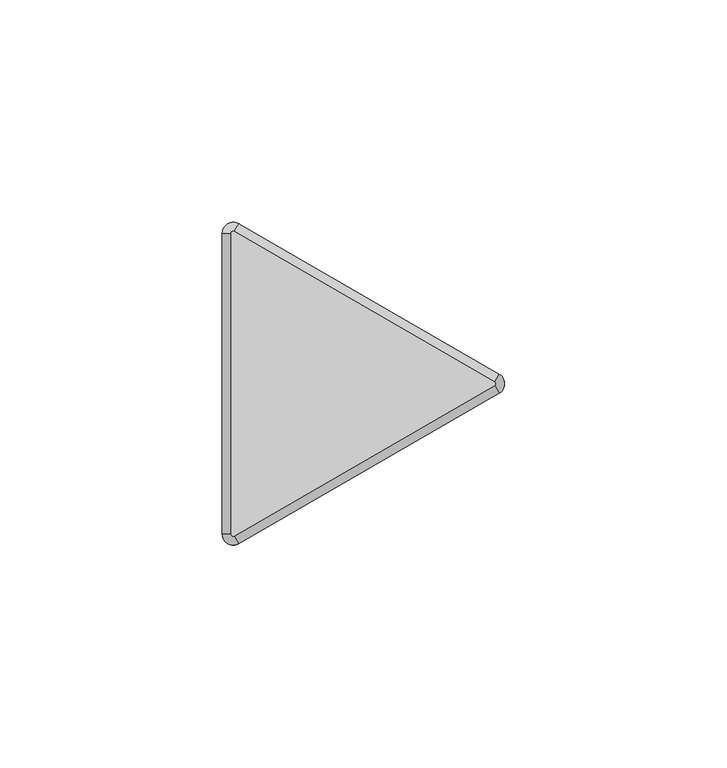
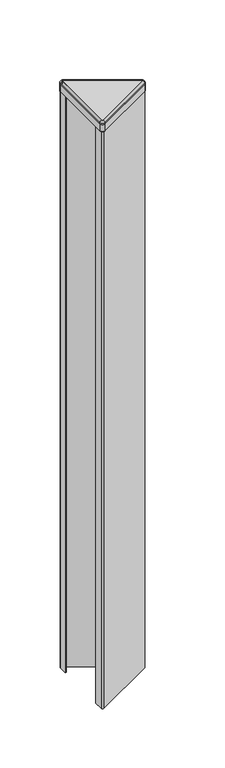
"""IFC4 building model written with IfcOpenShell, lengths in millimetres: furniture geometry, Steelcase - Answer Solution - Panel - 120deg Change-of-Height Trim - Thin : Y Corner - 24H for 78H App."""

from ifc_helpers import new_model, si_unit, point, frame, frame_2d, origin, place, context, project, spatial, polyline, circle_curve, ellipse_curve, trimmed, segment, composite_curve, outline, extrude, source, transform, mapped, element, save
from ifc_brep_helpers import plane_surface, cylinder_surface, revolved_surface, advanced_brep


def furniture_495dd6eb(model_context):
    return source(origin(), model_context, "Body", "SolidModel", [
        advanced_brep(
        [(-10.518645, -37.3335529, 1985.6628978), (-14.2052101, -35.2051135, 1985.6628978), (-14.2052101, -35.2051135, 1984.7164663), (-10.518645, -37.3335529, 1984.7164663), (-11.46175, -35.7000471, 1987.55), (-12.319, -35.2051135, 1987.55), (-11.46175, -35.7000471, 1984.7164663), (-12.319, -35.2051135, 1984.7164663), (48.0429908, -3.5229767, 1984.7164663), (48.0429908, -3.5229767, 1985.6628978), (47.0998858, -1.8894709, 1987.55), (47.0998858, -1.8894709, 1984.7164663), (48.0429908, 0.733902, 1985.6628978), (48.0429908, 0.733902, 1984.7164663), (47.0998858, -0.8996038, 1987.55), (47.0998858, -0.8996038, 1984.7164663), (-10.518645, 34.5444782, 1984.7164663), (-14.2052101, 32.4160388, 1984.7164663), (-11.46175, 32.9109723, 1984.7164663), (-12.319, 32.4160388, 1984.7164663), (-10.518645, 34.5444782, 1985.6628978), (-11.46175, 32.9109723, 1987.55), (-14.2052101, 32.4160388, 1985.6628978), (-12.319, 32.4160388, 1987.55)],
        [
            (0, 1, circle_curve(frame((-11.7475, -35.2051135, 1985.6628978), z_axis=(0.0, 0.0, -1.0), x_axis=(-1.0, 0.0, 0.0)), 2.4577101)),
            (1, 2),
            (2, 3, circle_curve(frame((-11.7475, -35.2051135, 1984.7164663), z_axis=(0.0, 0.0, 1.0), x_axis=(-1.0, 0.0, 0.0)), 2.4577101)),
            (3, 0),
            (4, 5, circle_curve(frame((-11.7475, -35.2051135, 1987.55), z_axis=(0.0, 0.0, -1.0), x_axis=(-1.0, 0.0, 0.0)), 0.5715)),
            (5, 1, circle_curve(frame((-12.3181076, -35.2051135, 1985.6628978), z_axis=(0.0, -1.0, 0.0), x_axis=(1.0, 0.0, 0.0)), 1.8871024)),
            (0, 4, circle_curve(frame((-11.4621962, -35.6992743, 1985.6628978), z_axis=(-0.8660254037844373, -0.5000000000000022, 0.0), x_axis=(-0.5000000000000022, 0.8660254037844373, 0.0)), 1.8871024)),
            (6, 7, circle_curve(frame((-11.7475, -35.2051135, 1984.7164663), z_axis=(0.0, 0.0, -1.0), x_axis=(-1.0, 0.0, 0.0)), 0.5715)),
            (7, 5),
            (4, 6),
            (3, 8),
            (8, 9),
            (9, 0),
            (9, 10, circle_curve(frame((47.0994396, -1.8886981, 1985.6628978), z_axis=(-0.8660254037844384, -0.5000000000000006, 0.0), x_axis=(-0.5000000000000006, 0.8660254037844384, 0.0)), 1.8871024)),
            (10, 4),
            (10, 11),
            (11, 6),
            (12, 9, circle_curve(frame((46.8141358, -1.3945374, 1985.6628978), z_axis=(0.0, 0.0, -1.0), x_axis=(0.4999999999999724, -0.8660254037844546, 0.0)), 2.4577101)),
            (8, 13, circle_curve(frame((46.8141358, -1.3945374, 1984.7164663), z_axis=(0.0, 0.0, 1.0), x_axis=(0.4999999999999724, -0.8660254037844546, 0.0)), 2.4577101)),
            (13, 12),
            (14, 10, circle_curve(frame((46.8141358, -1.3945374, 1987.55), z_axis=(0.0, 0.0, -1.0), x_axis=(0.4999999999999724, -0.8660254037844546, 0.0)), 0.5715)),
            (12, 14, circle_curve(frame((47.0994396, -0.9003766, 1985.6628978), z_axis=(0.8660254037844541, -0.49999999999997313, 0.0), x_axis=(-0.49999999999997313, -0.8660254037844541, 0.0)), 1.8871024)),
            (15, 11, circle_curve(frame((46.8141358, -1.3945374, 1984.7164663), z_axis=(0.0, 0.0, -1.0), x_axis=(0.4999999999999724, -0.8660254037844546, 0.0)), 0.5715)),
            (14, 15),
            (16, 13),
            (2, 17),
            (17, 16, circle_curve(frame((-11.7475, 32.4160388, 1984.7164663), z_axis=(0.0, 0.0, -1.0), x_axis=(0.500000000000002, 0.8660254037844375, 0.0)), 2.4577101)),
            (15, 18),
            (18, 19, circle_curve(frame((-11.7475, 32.4160388, 1984.7164663), z_axis=(0.0, 0.0, 1.0), x_axis=(0.500000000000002, 0.8660254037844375, 0.0)), 0.5715)),
            (19, 7),
            (16, 20),
            (20, 12),
            (20, 21, circle_curve(frame((-11.4621962, 32.9101995, 1985.6628978), z_axis=(0.8660254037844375, -0.5000000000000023, 0.0), x_axis=(-0.5000000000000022, -0.8660254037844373, 0.0)), 1.8871024)),
            (21, 14),
            (21, 18),
            (22, 20, circle_curve(frame((-11.7475, 32.4160388, 1985.6628978), z_axis=(0.0, 0.0, -1.0), x_axis=(0.500000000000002, 0.8660254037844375, 0.0)), 2.4577101)),
            (17, 22),
            (23, 21, circle_curve(frame((-11.7475, 32.4160388, 1987.55), z_axis=(0.0, 0.0, -1.0), x_axis=(0.500000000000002, 0.8660254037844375, 0.0)), 0.5715)),
            (22, 23, circle_curve(frame((-12.3181076, 32.4160388, 1985.6628978), z_axis=(0.0, 1.0, 0.0), x_axis=(1.0, 0.0, 0.0)), 1.8871024)),
            (23, 19),
            (1, 22),
            (5, 23),
        ],
        [
            cylinder_surface(frame((-11.7475, -35.2051135, 0.0), z_axis=(0.0, 0.0, 1.0), x_axis=(-1.0, 0.0, 0.0)), 2.4577101),
            revolved_surface(trimmed(ellipse_curve(frame((-12.3181076, -35.2051135, 1985.6628978), z_axis=(0.0, 1.0, 0.0), x_axis=(1.0, 0.0, 0.0)), 1.8871024, 1.8871024), [point((-14.2052101, -35.2051135, 1985.6628978))], [point((-12.319, -35.2051135, 1987.55))], True, "CARTESIAN"), (-11.7475, -35.2051135, 0.0), (0.0, 0.0, 1.0)),
            revolved_surface(polyline([(-12.319, -35.2051135, 1987.55), (-12.319, -35.2051135, 1984.7164663)]), (-11.7475, -35.2051135, 0.0), (0.0, 0.0, 1.0)),
            plane_surface(frame((-10.518645, -37.3335529, 1984.7164663), z_axis=(0.5000000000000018, -0.8660254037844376, 0.0), x_axis=(0.8660254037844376, 0.5000000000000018, 0.0))),
            cylinder_surface(frame((-11.4621962, -35.6992743, 1985.6628978), z_axis=(-0.8660254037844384, -0.5000000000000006, 0.0), x_axis=(-0.5000000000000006, 0.8660254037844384, 0.0)), 1.8871024),
            plane_surface(frame((-11.46175, -35.7000471, 1987.55), z_axis=(-0.5000000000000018, 0.8660254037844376, 0.0), x_axis=(0.8660254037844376, 0.5000000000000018, 0.0))),
            cylinder_surface(frame((46.8141358, -1.3945374, 0.0), z_axis=(0.0, 0.0, 1.0), x_axis=(0.4999999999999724, -0.8660254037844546, 0.0)), 2.4577101),
            revolved_surface(trimmed(ellipse_curve(frame((47.0994396, -1.8886981, 1985.6628978), z_axis=(-0.8660254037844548, -0.499999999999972, 0.0), x_axis=(-0.499999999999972, 0.8660254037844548, 0.0)), 1.8871024, 1.8871024), [point((48.0429908, -3.5229767, 1985.6628978))], [point((47.0998858, -1.8894709, 1987.55))], True, "CARTESIAN"), (46.8141358, -1.3945374, 0.0), (0.0, 0.0, 1.0)),
            revolved_surface(polyline([(47.09988579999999, -1.8894709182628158, 1987.55), (47.09988579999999, -1.8894709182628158, 1984.7164663)]), (46.8141358, -1.3945374, 0.0), (0.0, 0.0, 1.0)),
            plane_surface(frame((47.0998858, -0.8996038, 1984.7164663), z_axis=(0.0, 0.0, -1.0), x_axis=(-0.8660254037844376, 0.5000000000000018, 0.0))),
            plane_surface(frame((48.0429908, 0.733902, 1984.7164663), z_axis=(0.5000000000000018, 0.8660254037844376, 0.0), x_axis=(-0.8660254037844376, 0.5000000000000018, 0.0))),
            cylinder_surface(frame((47.0994396, -0.9003766, 1985.6628978), z_axis=(0.8660254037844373, -0.5000000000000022, 0.0), x_axis=(-0.5000000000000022, -0.8660254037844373, 0.0)), 1.8871024),
            plane_surface(frame((47.0998858, -0.8996038, 1987.55), z_axis=(-0.5000000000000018, -0.8660254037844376, 0.0), x_axis=(-0.8660254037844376, 0.5000000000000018, 0.0))),
            cylinder_surface(frame((-11.7475, 32.4160388, 0.0), z_axis=(0.0, 0.0, 1.0), x_axis=(0.500000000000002, 0.8660254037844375, 0.0)), 2.4577101),
            revolved_surface(trimmed(ellipse_curve(frame((-11.4621962, 32.9101995, 1985.6628978), z_axis=(0.866025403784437, -0.5000000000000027, 0.0), x_axis=(-0.5000000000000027, -0.866025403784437, 0.0)), 1.8871024, 1.8871024), [point((-10.518645, 34.5444782, 1985.6628978))], [point((-11.46175, 32.9109723, 1987.55))], True, "CARTESIAN"), (-11.7475, 32.4160388, 0.0), (0.0, 0.0, 1.0)),
            revolved_surface(polyline([(-11.461749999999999, 32.91097231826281, 1987.55), (-11.461749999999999, 32.91097231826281, 1984.7164663)]), (-11.7475, 32.4160388, 0.0), (0.0, 0.0, 1.0)),
            plane_surface(frame((-14.2052101, 32.4160388, 1984.7164663), z_axis=(-1.0, 0.0, 0.0), x_axis=(0.0, -1.0, 0.0))),
            cylinder_surface(frame((-12.3181076, 32.4160388, 1985.6628978), z_axis=(0.0, 1.0, 0.0), x_axis=(1.0, 0.0, 0.0)), 1.8871024),
            plane_surface(frame((-12.319, 32.4160388, 1987.55), z_axis=(1.0, 0.0, 0.0), x_axis=(0.0, -1.0, 0.0))),
        ],
        [
            (0, [[1, 2, 3, 4]]),
            (1, [[5, 6, -1, 7]]),
            (2, [[8, 9, -5, 10]]),
            (3, [[-4, 11, 12, 13]]),
            (4, [[-7, -13, 14, 15]]),
            (5, [[-10, -15, 16, 17]]),
            (6, [[18, -12, 19, 20]]),
            (7, [[21, -14, -18, 22]]),
            (8, [[23, -16, -21, 24]]),
            (9, [[25, -19, -11, -3, 26, 27], [-8, -17, -23, 28, 29, 30]]),
            (10, [[-20, -25, 31, 32]]),
            (11, [[-22, -32, 33, 34]]),
            (12, [[-24, -34, 35, -28]]),
            (13, [[36, -31, -27, 37]]),
            (14, [[38, -33, -36, 39]]),
            (15, [[-29, -35, -38, 40]]),
            (16, [[-37, -26, -2, 41]]),
            (17, [[-39, -41, -6, 42]]),
            (18, [[-40, -42, -9, -30]]),
        ],
    ),
        extrude(outline(composite_curve([segment(trimmed(circle_curve(frame_2d((47.9522001, -1.3945374)), 1.2978651), [point((48.6011327, -0.2705532))], [point((48.6011327, -2.5185215))], False, "CARTESIAN"), True, "CONTINUOUS"), segment(polyline([(48.6011327, -2.5185215), (-11.6879343, -37.3264306)]), True, "CONTINUOUS"), segment(trimmed(circle_curve(frame_2d((-12.3300896, -36.2141852)), 1.2843104), [point((-11.6879343, -37.3264306))], [point((-13.6144, -36.2141852))], False, "CARTESIAN"), True, "CONTINUOUS"), segment(polyline([(-13.6144, -36.2141852), (-13.6144, -27.3303775), (-12.7, -27.3303775), (-12.7, -36.8548888), (48.7191304, -1.3945374), (-12.7, 34.0658141), (-12.7, 24.5413027), (-13.6144, 24.5413027), (-13.6144, 33.4106259)]), True, "CONTINUOUS"), segment(trimmed(circle_curve(frame_2d((-12.3217269, 33.4106259)), 1.2926731), [point((-13.6144, 33.4106259))], [point((-11.6753904, 34.5301136))], False, "CARTESIAN"), True, "CONTINUOUS"), segment(polyline([(-11.6753904, 34.5301136), (48.6011327, -0.2705532)]), True, "CONTINUOUS")], self_intersect=False)), frame((0.0, 0.0, 1377.95), z_axis=(0.0, 0.0, 1.0), x_axis=(1.0, 0.0, 0.0)), (0.0, 0.0, 1.0), 599.44),
        extrude(outline(composite_curve([segment(trimmed(circle_curve(frame_2d((46.8261011, -1.3945374)), 0.5655173), [point((47.1088598, -0.904785))], [point((47.1088598, -1.8842897))], False, "CARTESIAN"), True, "CONTINUOUS"), segment(polyline([(47.1088598, -1.8842897), (-11.4505119, -35.6935587)]), True, "CONTINUOUS"), segment(trimmed(circle_curve(frame_2d((-11.7400079, -35.1921369)), 0.5789921), [point((-11.4505119, -35.6935587))], [point((-12.319, -35.1921369))], False, "CARTESIAN"), True, "CONTINUOUS"), segment(polyline([(-12.319, -35.1921369), (-12.319, 32.3985888)]), True, "CONTINUOUS"), segment(trimmed(circle_curve(frame_2d((-11.7374252, 32.3985888)), 0.5815748), [point((-12.319, 32.3985888))], [point((-11.4466378, 32.9022473))], False, "CARTESIAN"), True, "CONTINUOUS"), segment(polyline([(-11.4466378, 32.9022473), (47.1088598, -0.904785)]), True, "CONTINUOUS")], self_intersect=False)), frame((0.0, 0.0, 1984.7164663), z_axis=(0.0, 0.0, 1.0), x_axis=(1.0, 0.0, 0.0)), (0.0, 0.0, 1.0), 2.8335337),
        extrude(outline(composite_curve([segment(trimmed(circle_curve(frame_2d((46.8140443, -1.3945374)), 2.4577558), [point((48.0429222, 0.7339416))], [point((48.0429222, -3.5230163))], False, "CARTESIAN"), True, "CONTINUOUS"), segment(polyline([(48.0429222, -3.5230163), (-10.518058, -37.333214)]), True, "CONTINUOUS"), segment(trimmed(circle_curve(frame_2d((-11.7471087, -35.2044357)), 2.4581014), [point((-10.518058, -37.333214))], [point((-14.2052101, -35.2044357))], False, "CARTESIAN"), True, "CONTINUOUS"), segment(polyline([(-14.2052101, -35.2044357), (-14.2052101, 32.4160388)]), True, "CONTINUOUS"), segment(trimmed(circle_curve(frame_2d((-11.7475, 32.4160388)), 2.4577101), [point((-14.2052101, 32.4160388))], [point((-10.518645, 34.5444782))], False, "CARTESIAN"), True, "CONTINUOUS"), segment(polyline([(-10.518645, 34.5444782), (48.0429222, 0.7339416)]), True, "CONTINUOUS")], self_intersect=False)), frame((0.0, 0.0, 1977.39), z_axis=(0.0, 0.0, 1.0), x_axis=(1.0, 0.0, 0.0)), (0.0, 0.0, 1.0), 7.3264663),
    ])


if __name__ == "__main__":
    model = new_model("IFC4")
    model_context = context("Model", 3, world=origin())
    ifc_project = project(units=[si_unit("LENGTHUNIT", "METRE", prefix="MILLI")], contexts=[model_context])
    site = spatial("IfcSite", under=ifc_project)
    building = spatial("IfcBuilding", under=site)
    placement = place(None, origin())
    furniture_shape = furniture_495dd6eb(model_context)
    element("IfcFurniture", 1, ObjectType="Steelcase - Answer Solution - Panel - 120deg Change-of-Height Trim - Thin : Y Corner - 24H for 78H App", at=placement, inside=building, context=model_context, shape_type="MappedRepresentation", body=[
        mapped(furniture_shape, transform((0.0, 0.0, 0.0), x_axis=(1.0, 0.0, 0.0), y_axis=(0.0, 1.0, 0.0), z_axis=(0.0, 0.0, 1.0))),
    ])
    save(model, "model.ifc")
